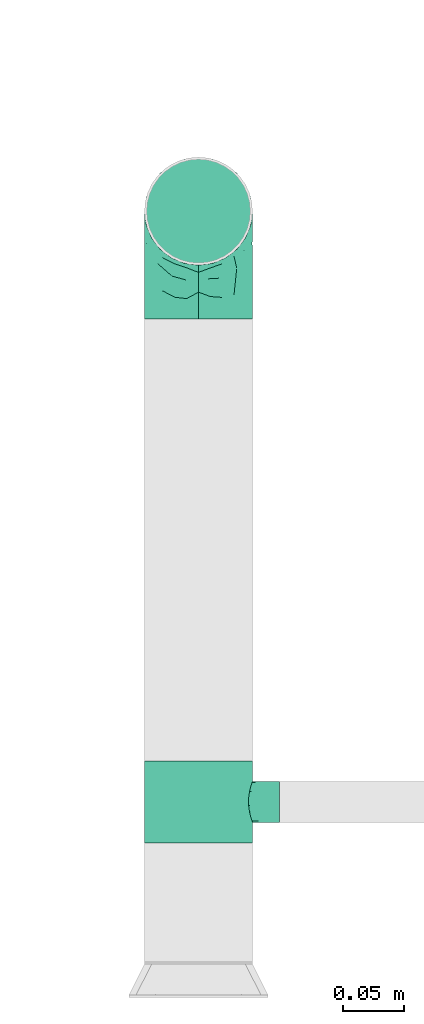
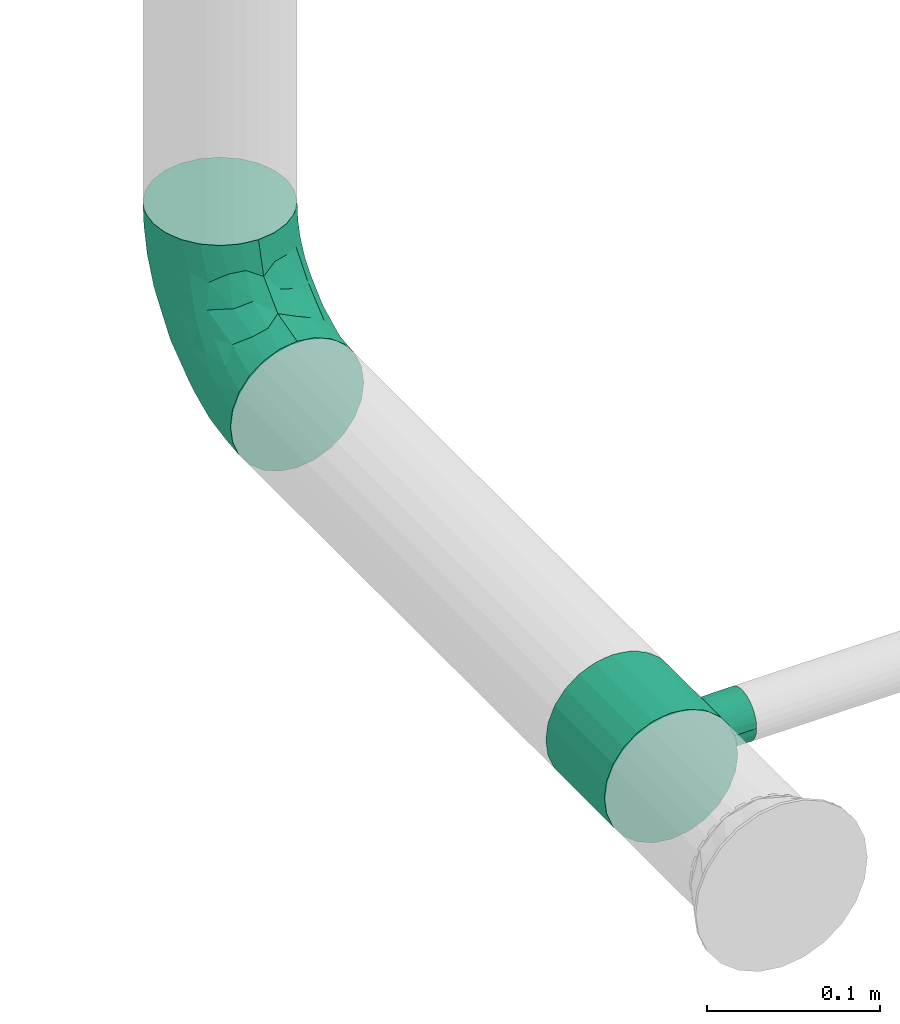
# One storey, part 41 of 45: 2 flow fittings.
"""IFC2X3 building model written with IfcOpenShell, lengths in millimetres."""

from ifc_helpers import new_model, entity, si_unit, converted_unit, derived_unit, direction, frame, origin_with_axes, place, context, subcontext, project, spatial, open_shell, surface_model, source, transform, mapped, type_object, element, save


model = new_model("IFC2X3")

# Units and contexts
model_context = context("Model", 3, precision=0.01, world=frame((0.0, 4.29681676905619e-09, 0.0)), true_north=direction((4.01073788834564e-13, 1.0)))
plan_context = context("Plan", 3, precision=0.01, world=frame((0.0, 4.29681676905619e-09, 0.0)), true_north=direction((4.01073788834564e-13, 1.0)))
body_context = subcontext(model_context, "Body", "Model", "MODEL_VIEW")
ifc_project = project(units=[converted_unit("PLANEANGLEUNIT", "DEGREE", entity("IfcPositiveLengthMeasure", 0.0174532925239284), si_unit("PLANEANGLEUNIT", "RADIAN"), dimensions=[0, 0, 0, 0, 0, 0, 0]), si_unit("AREAUNIT", "SQUARE_METRE"), si_unit("LENGTHUNIT", "METRE", prefix="MILLI"), si_unit("MASSUNIT", "GRAM", prefix="KILO"), si_unit("POWERUNIT", "WATT"), si_unit("PRESSUREUNIT", "PASCAL", prefix="KILO"), si_unit("FORCEUNIT", "NEWTON", prefix="KILO"), si_unit("ELECTRICVOLTAGEUNIT", "VOLT"), si_unit("ELECTRICCURRENTUNIT", "AMPERE"), si_unit("THERMODYNAMICTEMPERATUREUNIT", "DEGREE_CELSIUS"), si_unit("TIMEUNIT", "SECOND"), si_unit("VOLUMEUNIT", "CUBIC_METRE"), derived_unit("LINEARVELOCITYUNIT", [(si_unit("LENGTHUNIT", "METRE"), 1), (si_unit("TIMEUNIT", "SECOND"), -1)]), derived_unit("VOLUMETRICFLOWRATEUNIT", [(si_unit("VOLUMEUNIT", "CUBIC_METRE"), 1), (si_unit("TIMEUNIT", "SECOND"), -1)]), derived_unit("THERMALTRANSMITTANCEUNIT", [(si_unit("POWERUNIT", "WATT"), 1), (si_unit("THERMODYNAMICTEMPERATUREUNIT", "KELVIN"), -1), (si_unit("AREAUNIT", "SQUARE_METRE"), -1)]), derived_unit("SOUNDPRESSUREUNIT", [(si_unit("PRESSUREUNIT", "PASCAL"), 1)])], contexts=[model_context, plan_context])

# Site, building, storey
site_placement = place(None, frame((0.0, -4.29681676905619e-09, 0.0), z_axis=(0.0, 0.0, 1.0), x_axis=(1.0, 0.0, 0.0)))
site = spatial("IfcSite", under=ifc_project, at=site_placement, CompositionType="ELEMENT")
building_placement = place(site_placement, frame((0.0, 4.29681676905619e-09, 0.0), z_axis=(0.0, 0.0, 1.0), x_axis=(1.0, 0.0, 0.0)))
building = spatial("IfcBuilding", under=site, at=building_placement, Name="mc-building", CompositionType="ELEMENT")
storey_placement = place(building_placement, frame((0.0, 0.0, 210200.0), z_axis=(0.0, 0.0, 1.0), x_axis=(1.0, 0.0, 0.0)))
storey = spatial("IfcBuildingStorey", under=building, at=storey_placement, Name="Nivå F - 0,7 m", CompositionType="ELEMENT", Elevation=210200.0)

# Flow fittings
pipe_fitting_type_1 = type_object("IfcPipeFittingType", Name="magi_pipe_fe_elbow_short_001", PredefinedType="BEND")
shared_shape_1 = source(origin_with_axes(), body_context, "Body", "SurfaceModel", [
    surface_model("IfcShellBasedSurfaceModel", [(-89.0, 22.25, -38.53813), (-89.0, 11.51745, -42.9837), (-89.0, 0.0, -44.5), (-89.0, -31.46625, -31.46625), (-89.0, 42.9837, -11.51745), (-89.0, 38.53813, -22.25), (-89.0, 31.46625, -31.46625), (-89.0, -42.9837, 11.51745), (-89.0, -22.25, -38.53813), (-89.0, -11.51745, -42.9837), (-89.0, -38.53813, -22.25), (-89.0, -42.9837, -11.51745), (-89.0, -44.5, 0.0), (-89.0, 44.5, 0.0), (-89.0, 42.9837, 11.51745), (-89.0, 38.53813, 22.25), (-89.0, 11.51745, 42.9837), (-89.0, 22.25, 38.53813), (-89.0, 31.46625, 31.46625), (-89.0, -38.53813, 22.25), (-89.0, -31.46625, 31.46625), (-89.0, -22.25, 38.53813), (-89.0, -11.51745, 42.9837), (-89.0, 0.0, 44.5), (0.0, 89.0, -44.5), (-11.51745, 89.0, -42.9837), (-22.25, 89.0, -38.53813), (31.46625, 89.0, -31.46625), (-31.46625, 89.0, -31.46625), (-38.53813, 89.0, -22.25), (-42.9837, 89.0, -11.51745), (42.9837, 89.0, 11.51745), (11.51745, 89.0, -42.9837), (22.25, 89.0, -38.53813), (42.9837, 89.0, -11.51745), (38.53813, 89.0, -22.25), (44.5, 89.0, 0.0), (-42.9837, 89.0, 11.51745), (-44.5, 89.0, 0.0), (-11.51745, 89.0, 42.9837), (-38.53813, 89.0, 22.25), (-31.46625, 89.0, 31.46625), (-22.25, 89.0, 38.53813), (31.46625, 89.0, 31.46625), (38.53813, 89.0, 22.25), (22.25, 89.0, 38.53813), (0.0, 89.0, 44.5), (11.51745, 89.0, 42.9837), (-65.42428, -34.58934, 24.99387), (-60.92615, -39.17738, 14.07402), (-54.44766, -39.9511, 0.0), (-67.0033, -41.60408, 0.0), (20.966, 19.15286, 16.63614), (18.51857, 22.50533, 24.08448), (10.4657, 7.08355, 19.79374), (-67.98176, -5.89504, 43.73894), (-62.31445, 6.82125, 44.42415), (-11.98759, -17.38546, 13.71247), (-3.14091, -7.12033, 19.73763), (-17.39966, -17.28161, 21.15509), (-65.35987, -16.82173, 40.03398), (-34.36647, -10.72722, 37.00789), (-44.30391, -0.39934, 43.13177), (-58.22127, -25.63456, 33.14332), (-32.81793, -30.5148, 11.22345), (-38.34883, -33.28275, 0.0), (-22.25, -26.61439, 0.0), (-0.24515, 1.50726, 26.66121), (-15.28358, -10.61466, 27.57816), (-43.49903, 71.02442, 19.34125), (-37.1739, 69.28144, 29.23502), (-16.61105, 76.75956, 41.6822), (-6.09891, 66.56572, 44.3907), (-68.59708, 17.4527, 42.03662), (-11.61575, 29.80494, 43.69445), (-22.11114, 8.16361, 41.55403), (-4.54608, 24.04213, 40.89496), (-76.99086, 26.94844, 36.25967), (-15.46582, 43.76126, 44.42016), (-32.96179, 32.96179, 43.41874), (-26.49757, 19.44613, 44.27078), (-70.35301, 47.39906, 9.78402), (-71.04653, 43.49184, 19.33829), (-55.25263, 55.25263, 16.63447), (-69.56392, 37.0962, 29.20392), (25.63456, 58.22127, 33.14332), (-46.15102, 58.98863, 25.18654), (-7.94897, 7.94897, 36.38252), (33.28275, 38.34883, 0.0), (30.5148, 32.81793, 11.22345), (26.61439, 22.25, 0.0), (-32.2623, 57.51649, 37.40098), (-46.90759, 49.6971, 31.52137), (28.15678, 38.83054, 22.40746), (39.17738, 60.92615, 14.07402), (34.58934, 65.42428, 24.99387), (5.89504, 67.98176, 43.73894), (-38.83054, -28.15678, 22.40746), (41.60408, 67.0033, 0.0), (39.9511, 54.44766, 0.0), (-47.30867, 30.19441, 41.15989), (-48.89993, 19.06144, 43.70364), (-27.18633, 74.61927, 36.44428), (-46.8419, 71.78865, 9.54666), (-55.77112, 58.36681, 7.8317), (20.15578, 36.24405, 30.67717), (10.72722, 34.36646, 37.00789), (8.82969, 16.37545, 30.02978), (-50.46187, 66.75, 0.0), (-41.19565, 46.99267, 36.56569), (-61.27852, 30.20737, 37.47359), (16.82173, 65.35987, 40.03398), (-35.45256, 43.08265, 40.48995), (-25.39356, 46.06506, 42.77813), (-35.78831, -20.18199, 30.44157), (-19.24543, 60.29859, 42.38003), (-43.66621, 10.90441, 44.48101), (-57.15357, 47.81587, 24.81424), (0.39934, 44.30391, 43.13177), (4.50506, -4.03199, 11.81801), (-8.42562, -16.00657, 0.0), (5.39876, -5.39876, 0.0), (18.27854, 11.2026, 9.2952), (-66.75, 50.46187, 0.0), (16.00657, 8.42562, 0.0), (-65.62177, 38.32407, -29.64079), (-71.00581, 43.50509, -19.34374), (-36.35432, -11.23048, -37.33452), (-38.64129, -0.55509, -42.32471), (-17.87953, -0.74466, -36.46313), (-70.44691, 5.62674, -44.35517), (-42.59749, -33.40785, -14.96594), (-64.9187, -39.8376, -14.50738), (-55.9131, -33.00026, -24.10277), (-64.74306, 18.16527, -42.19806), (-49.02368, 10.51969, -44.49039), (-72.04232, 46.69365, -9.73728), (-43.29251, 50.55118, -33.51754), (-41.12712, 41.12712, -39.07257), (-54.39048, 37.59063, -35.35294), (-56.62372, 56.62371, -10.62473), (15.35741, 56.35485, -39.57726), (17.54325, 75.15597, -40.50008), (26.58599, 64.37989, -33.59817), (8.60891, -0.6174, -9.3365), (21.03491, 14.72807, -8.10637), (-18.16527, 64.74306, -42.19806), (-69.86124, 27.93071, -36.81239), (-74.91995, -35.42449, -25.85463), (-53.44587, 53.44587, -21.93397), (-38.32407, 65.62176, -29.64079), (-2.76838, -7.06072, -19.3197), (-13.25704, -8.90126, -27.75888), (3.56899, 7.13004, -28.01), (-64.37989, -26.58599, -33.59817), (24.07506, 30.03079, -22.26791), (33.00026, 55.9131, -24.10277), (31.23147, 35.6382, -13.05741), (-75.15597, -17.54325, -40.50008), (39.8376, 64.9187, -14.50738), (-48.56519, -20.31894, -34.9406), (-33.22603, -18.15266, -31.12982), (-25.41361, -19.94101, -24.51222), (15.24517, 10.92147, -16.71054), (-6.18621, -14.52322, -9.0433), (-27.62496, -28.53296, -8.93888), (-46.69365, 72.04231, -9.73728), (-56.35485, -15.35741, -39.57726), (-65.56275, -5.6109, -43.68636), (-5.62674, 70.44691, -44.35517), (1.87337, 20.9035, -37.11096), (-15.70957, 15.70957, -42.01996), (0.55509, 38.64129, -42.32471), (-43.50509, 71.00581, -19.34374), (5.6109, 65.56274, -43.68636), (35.42449, 74.91995, -25.85463), (-27.93071, 69.86124, -36.8124), (-25.96661, 24.06239, -44.47474), (-42.18599, 26.33091, -43.1755), (9.1973, 37.99016, -38.87512), (18.15266, 33.22603, -31.12982), (-54.10228, 28.63855, -40.10814), (-10.51969, 49.02368, -44.49039), (-26.53428, 43.30446, -42.96025), (-33.34568, 54.74553, -37.69591), (-22.46771, -22.93149, -16.78715)], [open_shell([[[0, 1, 2]], [[0, 2, 3]], [[4, 5, 6]], [[7, 6, 0]], [[0, 3, 7]], [[8, 3, 9]], [[3, 2, 9]], [[10, 11, 3]], [[7, 3, 11]], [[11, 12, 7]], [[13, 4, 6]], [[13, 7, 14]], [[15, 14, 16]], [[16, 17, 18]], [[15, 16, 18]], [[16, 14, 7]], [[19, 20, 7]], [[21, 7, 20]], [[22, 23, 21]], [[7, 21, 23]], [[23, 16, 7]], [[6, 7, 13]], [[24, 25, 26]], [[27, 24, 26]], [[28, 29, 30]], [[28, 30, 26]], [[31, 27, 26]], [[32, 27, 33]], [[32, 24, 27]], [[27, 34, 35]], [[34, 27, 31]], [[31, 36, 34]], [[30, 31, 26]], [[37, 31, 38]], [[39, 37, 40]], [[41, 42, 39]], [[41, 39, 40]], [[31, 37, 39]], [[31, 43, 44]], [[43, 31, 45]], [[45, 46, 47]], [[45, 31, 39]], [[39, 46, 45]], [[38, 31, 30]], [[48, 19, 49]], [[50, 49, 51]], [[52, 53, 54]], [[49, 19, 7]], [[7, 51, 49]], [[23, 55, 56]], [[20, 19, 48]], [[57, 58, 59]], [[60, 61, 62]], [[63, 21, 20]], [[63, 60, 21]], [[64, 65, 66]], [[58, 67, 68]], [[40, 69, 70]], [[39, 71, 72]], [[16, 73, 17]], [[74, 75, 76]], [[17, 77, 18]], [[22, 55, 23]], [[78, 79, 80]], [[81, 82, 83]], [[15, 84, 82]], [[85, 43, 45]], [[13, 14, 81]], [[14, 15, 82]], [[69, 86, 70]], [[84, 15, 18]], [[23, 56, 16]], [[68, 87, 61]], [[18, 77, 84]], [[88, 89, 90]], [[91, 70, 92]], [[93, 94, 95]], [[57, 59, 64]], [[40, 37, 69]], [[47, 46, 96]], [[44, 43, 95]], [[94, 31, 44]], [[49, 50, 65]], [[95, 94, 44]], [[48, 97, 63]], [[94, 98, 31]], [[94, 88, 99]], [[100, 73, 101]], [[70, 91, 102]], [[83, 103, 104]], [[105, 106, 107]], [[108, 103, 38]], [[100, 109, 110]], [[103, 83, 69]], [[85, 111, 106]], [[42, 41, 102]], [[112, 113, 91]], [[40, 70, 41]], [[21, 60, 22]], [[114, 61, 63]], [[111, 45, 47]], [[42, 71, 39]], [[46, 39, 72]], [[115, 78, 72]], [[101, 116, 80]], [[111, 85, 45]], [[110, 92, 84]], [[73, 16, 56]], [[82, 117, 83]], [[115, 113, 78]], [[96, 72, 118]], [[61, 60, 63]], [[55, 60, 62]], [[114, 63, 97]], [[61, 87, 75]], [[96, 111, 47]], [[118, 76, 106]], [[118, 106, 111]], [[106, 87, 107]], [[101, 73, 56]], [[77, 73, 110]], [[97, 48, 49]], [[63, 20, 48]], [[43, 85, 95]], [[93, 95, 85]], [[119, 120, 121]], [[57, 119, 58]], [[57, 64, 66]], [[90, 89, 122]], [[119, 121, 122]], [[106, 105, 85]], [[103, 69, 37]], [[83, 117, 86]], [[100, 112, 109]], [[115, 71, 102]], [[117, 84, 92]], [[83, 104, 81]], [[101, 80, 79]], [[118, 72, 78]], [[75, 80, 62]], [[78, 80, 74]], [[72, 96, 46]], [[111, 96, 118]], [[60, 55, 22]], [[56, 55, 62]], [[101, 56, 116]], [[100, 101, 79]], [[112, 100, 79]], [[73, 100, 110]], [[113, 112, 79]], [[109, 112, 91]], [[38, 103, 37]], [[103, 108, 104]], [[108, 123, 104]], [[104, 123, 81]], [[13, 81, 123]], [[14, 82, 81]], [[56, 62, 116]], [[62, 80, 116]], [[78, 113, 79]], [[91, 113, 115]], [[67, 87, 68]], [[53, 107, 54]], [[84, 117, 82]], [[86, 117, 92]], [[70, 86, 92]], [[83, 86, 69]], [[53, 105, 107]], [[93, 85, 105]], [[70, 102, 41]], [[115, 102, 91]], [[91, 92, 109]], [[110, 109, 92]], [[61, 75, 62]], [[76, 75, 87]], [[106, 76, 87]], [[74, 76, 118]], [[78, 74, 118]], [[75, 74, 80]], [[7, 12, 51]], [[98, 94, 99]], [[98, 36, 31]], [[65, 64, 49]], [[49, 64, 97]], [[89, 94, 93]], [[94, 89, 88]], [[93, 53, 52]], [[119, 122, 54]], [[122, 121, 124]], [[58, 119, 54]], [[57, 120, 119]], [[67, 54, 107]], [[59, 58, 68]], [[114, 59, 68]], [[64, 59, 97]], [[54, 67, 58]], [[87, 67, 107]], [[73, 77, 17]], [[84, 77, 110]], [[102, 71, 42]], [[72, 71, 115]], [[59, 114, 97]], [[68, 61, 114]], [[57, 66, 120]], [[54, 122, 52]], [[105, 53, 93]], [[122, 89, 52]], [[93, 52, 89]], [[124, 90, 122]], [[125, 5, 126]], [[127, 128, 129]], [[2, 1, 130]], [[131, 132, 133]], [[130, 134, 135]], [[134, 1, 0]], [[123, 136, 13]], [[137, 138, 139]], [[126, 136, 140]], [[141, 142, 143]], [[125, 6, 5]], [[144, 145, 124]], [[25, 146, 26]], [[134, 0, 147]], [[132, 10, 148]], [[149, 150, 137]], [[132, 51, 11]], [[151, 152, 153]], [[154, 3, 8]], [[155, 156, 157]], [[158, 154, 8]], [[159, 35, 34]], [[10, 132, 11]], [[3, 148, 10]], [[133, 154, 160]], [[158, 8, 9]], [[161, 162, 133]], [[153, 155, 163]], [[123, 108, 140]], [[164, 66, 165]], [[38, 30, 166]], [[167, 168, 128]], [[5, 4, 126]], [[25, 169, 146]], [[170, 171, 172]], [[173, 150, 149]], [[25, 24, 169]], [[33, 27, 143]], [[174, 32, 142]], [[29, 28, 150]], [[175, 27, 35]], [[26, 176, 28]], [[177, 135, 178]], [[32, 33, 142]], [[159, 157, 156]], [[139, 147, 125]], [[170, 172, 179]], [[30, 29, 173]], [[153, 170, 180]], [[168, 167, 158]], [[143, 180, 141]], [[168, 9, 2]], [[159, 98, 99]], [[147, 181, 134]], [[0, 6, 147]], [[159, 156, 175]], [[176, 26, 146]], [[182, 174, 172]], [[32, 174, 24]], [[135, 134, 178]], [[138, 183, 178]], [[173, 140, 166]], [[138, 137, 184]], [[134, 181, 178]], [[185, 151, 164]], [[173, 166, 30]], [[140, 149, 126]], [[175, 143, 27]], [[180, 143, 156]], [[172, 174, 141]], [[169, 174, 182]], [[179, 180, 170]], [[172, 171, 177]], [[159, 34, 98]], [[157, 99, 88]], [[145, 157, 90]], [[155, 157, 163]], [[167, 127, 160]], [[148, 154, 133]], [[130, 168, 2]], [[135, 177, 128]], [[135, 128, 168]], [[128, 171, 129]], [[133, 162, 131]], [[34, 36, 98]], [[6, 125, 147]], [[181, 139, 138]], [[146, 183, 184]], [[150, 28, 176]], [[126, 4, 136]], [[125, 126, 149]], [[150, 173, 29]], [[140, 173, 149]], [[180, 155, 153]], [[129, 171, 170]], [[151, 153, 163]], [[153, 152, 129]], [[153, 129, 170]], [[129, 161, 127]], [[134, 130, 1]], [[168, 130, 135]], [[174, 169, 24]], [[146, 169, 182]], [[184, 183, 138]], [[177, 171, 128]], [[183, 177, 178]], [[172, 177, 182]], [[146, 182, 183]], [[177, 183, 182]], [[185, 165, 131]], [[65, 131, 165]], [[164, 144, 121]], [[152, 162, 161]], [[144, 151, 163]], [[164, 120, 66]], [[162, 151, 185]], [[129, 152, 161]], [[13, 136, 4]], [[123, 140, 136]], [[140, 108, 166]], [[38, 166, 108]], [[151, 144, 164]], [[145, 144, 163]], [[157, 145, 163]], [[124, 121, 144]], [[145, 90, 124]], [[164, 165, 185]], [[65, 50, 131]], [[165, 66, 65]], [[50, 132, 131]], [[138, 178, 181]], [[147, 139, 181]], [[125, 149, 137]], [[137, 139, 125]], [[184, 150, 176]], [[150, 184, 137]], [[184, 176, 146]], [[151, 162, 152]], [[162, 185, 131]], [[51, 132, 50]], [[51, 12, 11]], [[143, 142, 33]], [[174, 142, 141]], [[159, 175, 35]], [[143, 175, 156]], [[168, 158, 9]], [[154, 158, 167]], [[154, 148, 3]], [[132, 148, 133]], [[99, 157, 159]], [[88, 90, 157]], [[156, 155, 180]], [[172, 141, 179]], [[180, 179, 141]], [[160, 127, 161]], [[128, 127, 167]], [[133, 160, 161]], [[167, 160, 154]], [[164, 121, 120]]])]),
])
flow_fitting_1_placement = place(storey_placement, frame((324119.17326, 463640.00018, 2938.0), z_axis=(1.0, 0.0, 0.0), x_axis=(0.0, 1.0, 0.0)))
element("IfcFlowFitting", 1, at=flow_fitting_1_placement, inside=storey, type_object=pipe_fitting_type_1, Name="magi_pipe_fe_elbow_short_001", context=body_context, shape_type="MappedRepresentation", body=[
    mapped(shared_shape_1, transform((0.0, 0.0, 0.0), scale=1.0)),
])
pipe_fitting_type_2 = type_object("IfcPipeFittingType", Name="magi_pipe_fe_tee_centric_90_001", PredefinedType="JUNCTION")
shared_shape_2 = source(origin_with_axes(), body_context, "Body", "SurfaceModel", [
    surface_model("IfcShellBasedSurfaceModel", [(-33.8, 11.51745, -42.9837), (-33.8, 0.0, -44.5), (-33.8, 31.46625, -31.46625), (-33.8, 22.25, -38.53813), (-33.8, 38.53813, -22.25), (-33.8, -31.46625, -31.46625), (-33.8, 44.5, 0.0), (-33.8, -22.25, -38.53813), (-33.8, -11.51745, -42.9837), (-33.8, -42.9837, -11.51745), (-33.8, -44.5, 0.0), (-33.8, -38.53813, -22.25), (-33.8, 22.25, 38.53813), (-33.8, 42.9837, -11.51745), (-33.8, 42.9837, 11.51745), (-33.8, 38.53813, 22.25), (-33.8, 31.46625, 31.46625), (-33.8, -22.25, 38.53813), (-33.8, 11.51745, 42.9837), (-33.8, 0.0, 44.5), (-33.8, -31.46625, 31.46625), (-33.8, -38.53813, 22.25), (-33.8, -42.9837, 11.51745), (-33.8, -11.51745, 42.9837), (33.8, 31.46625, -31.46625), (33.8, 0.0, -44.5), (33.8, 11.51745, -42.9837), (33.8, 22.25, -38.53813), (33.8, -31.46625, -31.46625), (33.8, 38.53813, -22.25), (33.8, 44.5, 0.0), (33.8, -11.51745, -42.9837), (33.8, -22.25, -38.53813), (33.8, -38.53813, -22.25), (33.8, -44.5, 0.0), (33.8, -42.9837, -11.51745), (33.8, -22.25, 38.53813), (33.8, 42.9837, -11.51745), (33.8, 31.46625, 31.46625), (33.8, 42.9837, 11.51745), (33.8, 38.53813, 22.25), (33.8, 22.25, 38.53813), (33.8, 0.0, 44.5), (33.8, 11.51745, 42.9837), (33.8, -38.53813, 22.25), (33.8, -31.46625, 31.46625), (33.8, -42.9837, 11.51745), (33.8, -11.51745, 42.9837), (33.8, -43.74185, 5.75872), (16.9, -44.5, 0.0), (12.93303, -43.14978, 10.87873), (15.86662, -44.11791, 5.81896), (2.9573, -41.27209, 16.63924), (8.47917, -42.03018, 14.61895), (-12.9376, -43.15115, 10.87329), (-33.8, -43.74185, 5.75872), (-15.86708, -44.11807, 5.81773), (-16.9, -44.5, 0.0), (-8.48058, -42.03047, 14.61813), (-2.96187, -41.27242, 16.63843), (12.93303, -43.14978, -10.87873), (33.8, -43.74185, -5.75872), (15.86662, -44.11791, -5.81896), (-33.8, -43.74185, -5.75872), (-15.86708, -44.11807, -5.81773), (8.47917, -42.03018, -14.61895), (2.9573, -41.27209, -16.63924), (-2.96187, -41.27242, -16.63843), (-8.48058, -42.03047, -14.61813), (-12.9376, -43.15115, -10.87329), (4.37404, -66.75, -16.32415), (-16.9, -66.75, 0.0), (0.0, -66.75, -16.9), (14.63583, -66.75, -8.45), (8.45, -66.75, -14.63583), (16.32415, -66.75, -4.37404), (11.9501, -66.75, -11.9501), (-11.9501, -66.75, -11.9501), (-8.45, -66.75, -14.63583), (-4.37404, -66.75, -16.32415), (-14.63583, -66.75, -8.45), (-16.32415, -66.75, -4.37404), (16.9, -66.75, 0.0), (8.45, -66.75, 14.63583), (16.32415, -66.75, 4.37404), (14.63583, -66.75, 8.45), (-8.45, -66.75, 14.63583), (11.9501, -66.75, 11.9501), (4.37404, -66.75, 16.32415), (-16.32415, -66.75, 4.37404), (-11.9501, -66.75, 11.9501), (-14.63583, -66.75, 8.45), (0.0, -66.75, 16.9), (-4.37404, -66.75, 16.32415), (-16.38354, -44.30904, 2.90886), (16.38331, -44.30896, 2.90948), (-5.72123, -41.65145, 15.62828), (-0.00228, -41.27226, 16.63883), (5.71824, -41.65114, 15.62909), (16.38331, -44.30896, -2.90948), (-16.38354, -44.30904, -2.90886), (5.71824, -41.65114, -15.62909), (-0.00228, -41.27226, -16.63883), (-5.72123, -41.65145, -15.62828)], [open_shell([[[0, 1, 2]], [[3, 0, 2]], [[4, 2, 5]], [[1, 5, 2]], [[5, 6, 4]], [[7, 5, 8]], [[5, 1, 8]], [[9, 10, 11]], [[5, 11, 10]], [[10, 12, 5]], [[6, 13, 4]], [[14, 6, 12]], [[15, 14, 16]], [[12, 10, 17]], [[16, 14, 12]], [[18, 12, 19]], [[20, 17, 21]], [[10, 22, 21]], [[23, 19, 17]], [[21, 17, 10]], [[17, 19, 12]], [[6, 5, 12]], [[24, 25, 26]], [[24, 26, 27]], [[28, 24, 29]], [[24, 28, 25]], [[29, 30, 28]], [[31, 28, 32]], [[31, 25, 28]], [[33, 34, 35]], [[34, 33, 28]], [[28, 36, 34]], [[29, 37, 30]], [[38, 30, 39]], [[38, 39, 40]], [[36, 28, 41]], [[41, 30, 38]], [[42, 41, 43]], [[44, 36, 45]], [[36, 44, 46]], [[41, 47, 36]], [[46, 34, 36]], [[42, 47, 41]], [[41, 28, 30]], [[34, 48, 49]], [[50, 51, 48]], [[48, 46, 50]], [[52, 44, 21]], [[44, 53, 46]], [[53, 44, 52]], [[46, 53, 50]], [[44, 45, 20]], [[54, 55, 56]], [[57, 55, 10]], [[57, 56, 55]], [[54, 22, 55]], [[58, 59, 21]], [[58, 21, 22]], [[59, 52, 21]], [[44, 20, 21]], [[58, 22, 54]], [[49, 48, 51]], [[45, 17, 20]], [[19, 47, 42]], [[23, 36, 47]], [[18, 42, 43]], [[40, 39, 14]], [[16, 41, 38]], [[15, 38, 40]], [[43, 41, 12]], [[6, 39, 30]], [[17, 36, 23]], [[23, 47, 19]], [[18, 19, 42]], [[43, 12, 18]], [[12, 41, 16]], [[15, 16, 38]], [[14, 15, 40]], [[39, 6, 14]], [[36, 17, 45]], [[6, 30, 37]], [[37, 29, 13]], [[24, 4, 29]], [[8, 25, 31]], [[0, 27, 26]], [[60, 61, 62]], [[25, 1, 26]], [[31, 32, 7]], [[24, 27, 3]], [[4, 13, 29]], [[6, 37, 13]], [[2, 4, 24]], [[57, 63, 64]], [[3, 27, 0]], [[1, 0, 26]], [[25, 8, 1]], [[31, 7, 8]], [[24, 3, 2]], [[32, 5, 7]], [[11, 28, 33]], [[65, 66, 33]], [[33, 35, 65]], [[11, 33, 66]], [[34, 49, 61]], [[60, 35, 61]], [[62, 61, 49]], [[35, 60, 65]], [[67, 68, 11]], [[5, 28, 11]], [[68, 9, 11]], [[11, 66, 67]], [[64, 63, 69]], [[63, 9, 69]], [[63, 57, 10]], [[69, 9, 68]], [[28, 5, 32]], [[70, 71, 72]], [[73, 70, 74]], [[73, 75, 70]], [[73, 74, 76]], [[71, 70, 75]], [[72, 77, 78]], [[78, 79, 72]], [[80, 71, 81]], [[77, 72, 80]], [[71, 80, 72]], [[75, 82, 71]], [[83, 82, 84]], [[83, 84, 85]], [[86, 71, 83]], [[83, 85, 87]], [[86, 83, 88]], [[89, 90, 91]], [[90, 89, 86]], [[86, 92, 93]], [[89, 71, 86]], [[88, 92, 86]], [[83, 71, 82]], [[89, 94, 71]], [[90, 54, 91]], [[95, 51, 84]], [[96, 86, 93]], [[91, 56, 89]], [[58, 90, 86]], [[94, 57, 71]], [[56, 91, 54]], [[93, 59, 96]], [[58, 54, 90]], [[92, 52, 97]], [[83, 98, 88]], [[92, 59, 93]], [[98, 83, 53]], [[89, 56, 94]], [[96, 58, 86]], [[87, 53, 83]], [[51, 85, 84]], [[87, 85, 50]], [[52, 92, 88]], [[98, 52, 88]], [[97, 59, 92]], [[53, 87, 50]], [[50, 85, 51]], [[82, 95, 84]], [[95, 82, 49]], [[75, 99, 82]], [[60, 73, 76]], [[100, 64, 81]], [[101, 74, 70]], [[73, 62, 75]], [[74, 65, 76]], [[99, 49, 82]], [[62, 73, 60]], [[70, 66, 101]], [[65, 60, 76]], [[72, 67, 102]], [[78, 103, 79]], [[72, 66, 70]], [[103, 78, 68]], [[75, 62, 99]], [[101, 65, 74]], [[77, 68, 78]], [[81, 64, 80]], [[80, 69, 77]], [[67, 72, 79]], [[103, 67, 79]], [[102, 66, 72]], [[68, 77, 69]], [[69, 80, 64]], [[71, 100, 81]], [[100, 71, 57]]])]),
])
flow_fitting_2_placement = place(storey_placement, frame((324119.17326, 463153.36146, 2938.0), z_axis=(0.0, 0.0, -1.0), x_axis=(0.0, -1.0, 0.0)))
element("IfcFlowFitting", 2, at=flow_fitting_2_placement, inside=storey, type_object=pipe_fitting_type_2, Name="magi_pipe_fe_tee_centric_90_001", context=body_context, shape_type="MappedRepresentation", body=[
    mapped(shared_shape_2, transform((0.0, 0.0, 0.0), scale=1.0)),
])

save(model, "model.ifc")
